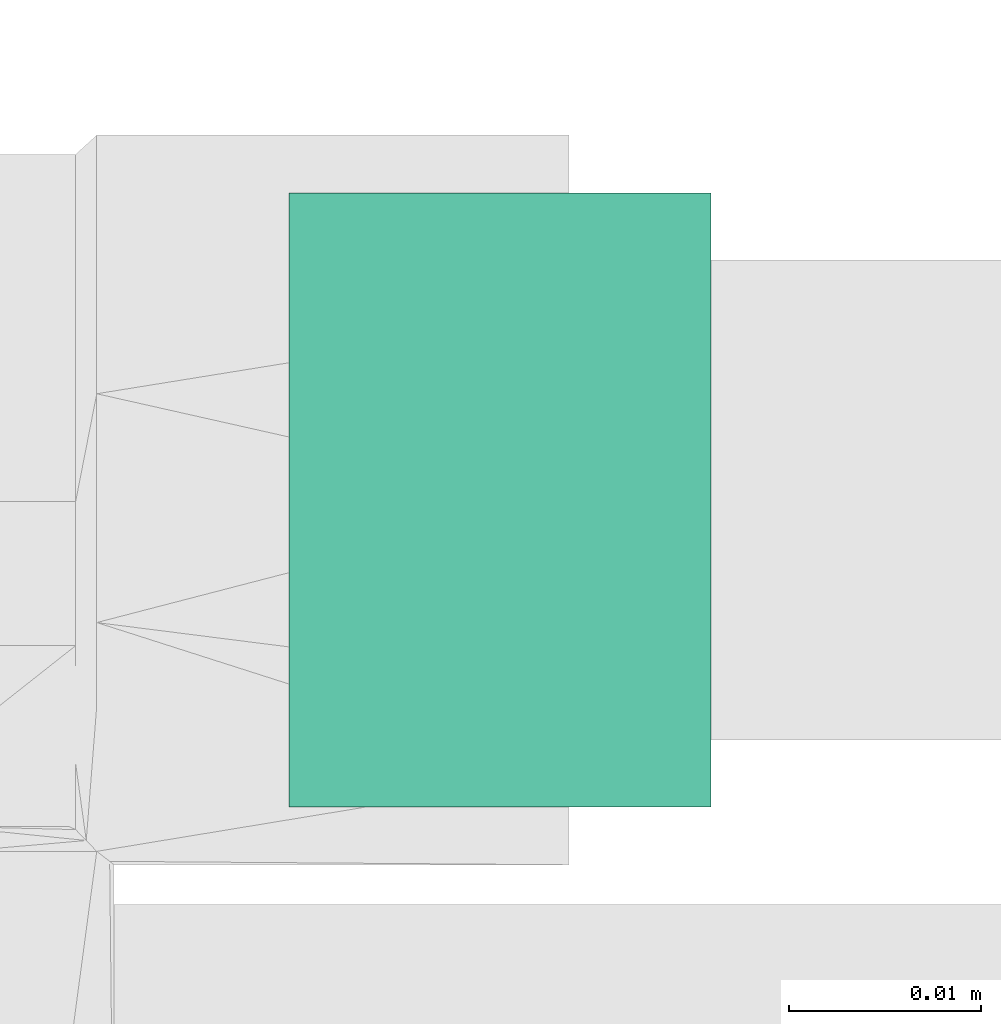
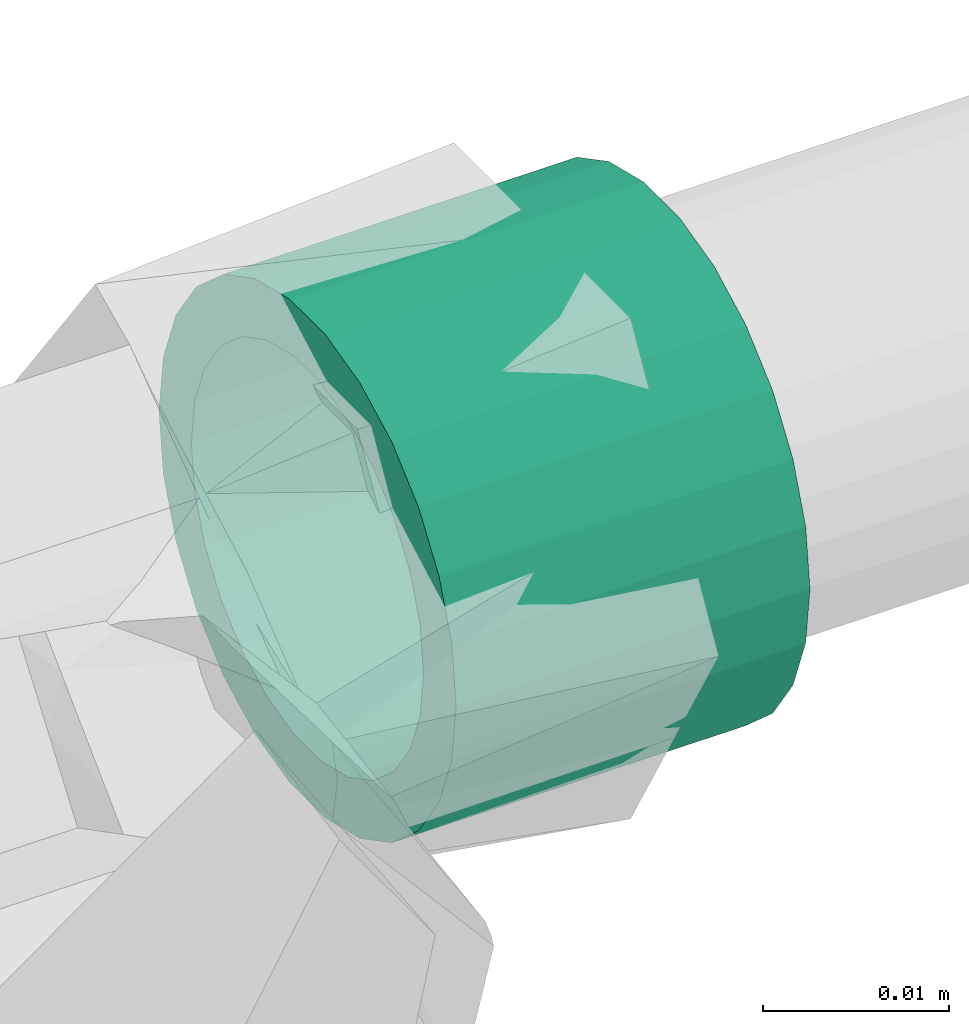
# One storey, part 161 of 166: 1 flow fitting.
"""IFC2X3 building model written with IfcOpenShell, lengths in metres."""

from ifc_helpers import new_model, entity, si_unit, converted_unit, direction, frame, frame_2d, origin, place, context, subcontext, project, spatial, hollow_circle, extrude, source, transform, mapped, material, type_object, type_shapes, element, save


model = new_model("IFC2X3")

# Units and contexts
model_context = context("Model", 3, precision=1e-05, world=origin(), true_north=direction((6.123233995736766e-17, 1.0)))
body_context = subcontext(model_context, "Body", "Model", "MODEL_VIEW")
ifc_project = project(units=[si_unit("LENGTHUNIT", "METRE"), converted_unit("PLANEANGLEUNIT", "DEGREE", entity("IfcPlaneAngleMeasure", 0.017453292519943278), si_unit("PLANEANGLEUNIT", "RADIAN"), dimensions=[0, 0, 0, 0, 0, 0, 0]), si_unit("AREAUNIT", "SQUARE_METRE")], contexts=[model_context])

# Site, building, storey
site_placement = place(None, origin())
site = spatial("IfcSite", under=ifc_project, at=site_placement, Name="Default", CompositionType="ELEMENT")
building_placement = place(site_placement, origin())
building = spatial("IfcBuilding", under=site, at=building_placement, Name="CASA DE ACOLHIDA PARA IDOSOS", CompositionType="ELEMENT")
storey_placement = place(building_placement, frame((0.0, 0.0, -1.7499999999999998)))
storey = spatial("IfcBuildingStorey", under=building, at=storey_placement, Name="IMPLANTAÇÃO DRENAGEM", CompositionType="ELEMENT", Elevation=-1.7499999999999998)

# Flow fitting
ifc_material = material(Name="PVC Marrom")
pipe_fitting_type = type_object("IfcPipeFittingType", Name="AF_Soldavel_Bucha de Reducao Curta:Standard", PredefinedType="NOTDEFINED", material=ifc_material)
shared_shape = source(origin(), body_context, "Body", "SweptSolid", [
    extrude(hollow_circle(Radius=0.016, WallThickness=0.0034999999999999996, at=frame_2d((0.0, -7.20339910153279e-17), x_axis=(1.0, 0.0))), frame((0.0, 0.0, 0.0), z_axis=(1.0, 0.0, 0.0), x_axis=(0.0, 1.0, 0.0)), (0.0, 0.0, 1.0), 0.02200000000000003),
])
type_shapes(pipe_fitting_type, [shared_shape])
flow_fitting_placement = place(storey_placement, frame((20.05525371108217, 49.254942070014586, -0.19999999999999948), z_axis=(0.0, 0.0, 1.0), x_axis=(-1.0, 0.0, 0.0)))
element("IfcFlowFitting", 1, at=flow_fitting_placement, inside=storey, type_object=pipe_fitting_type, material=ifc_material, Name="AF_Soldavel_Bucha de Reducao Curta:Standard", ObjectType="AF_Soldavel_Bucha de Reducao Curta:Standard", context=body_context, shape_type="MappedRepresentation", body=[
    mapped(shared_shape, transform((0.0, 0.0, 0.0), scale=1.0)),
])

save(model, "model.ifc")
